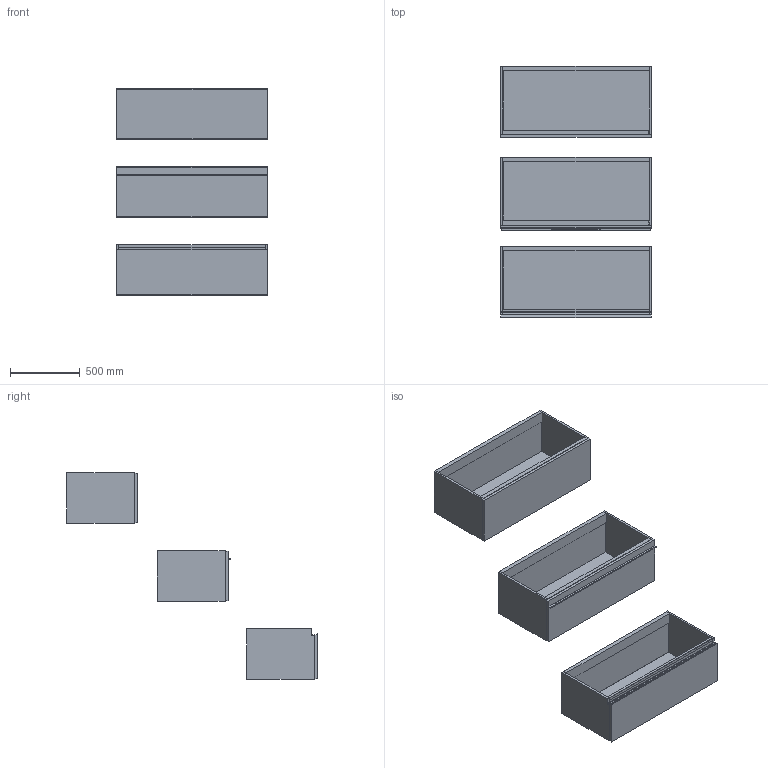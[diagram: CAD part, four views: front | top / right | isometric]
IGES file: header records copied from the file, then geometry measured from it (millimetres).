
Start section: Data from Parasolid IGES Translator 19.0.9, Copyright(c) 2006 Siemens PL M Software. All Rights Reserved.
Global section: file name: noorth-SI-H 36 D 51 W 108_8364.igs; native system: By Siemens PLM Incorporated; preprocessor: XPlus GENERIC/IGES 19.0.9; author: Noname; organization: Noname; date: 20200601.094914; units: metre
Bounding box: 1080 x 1799.15 x 1480.01 mm (x, y, z)
Volume: 75088588.1 mm3; surface area: 11138774.6 mm2
Topology: 23 solids, 23 shells, 196 faces, 418 edges, 258 vertices
Faces by surface type: plane 152, extrusion 16, bspline 16, cylinder 12
